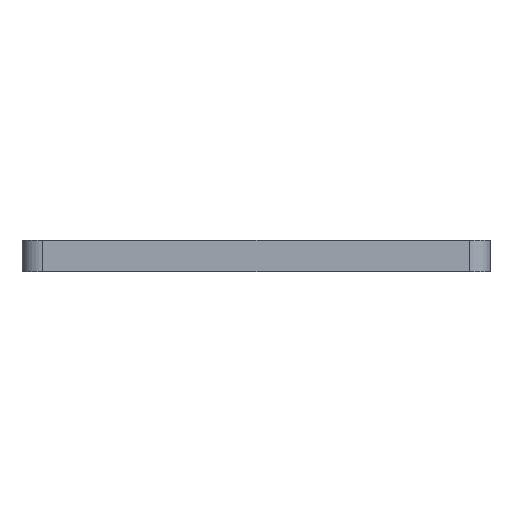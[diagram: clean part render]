
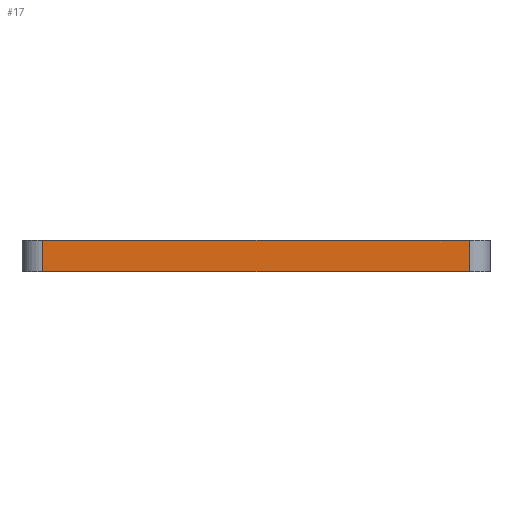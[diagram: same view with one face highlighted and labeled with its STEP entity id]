
A CAD part, left-side view. The second image highlights one B-rep face of the part: STEP entity #17.
In plain terms, the highlighted planar face has unit normal (-1, 0, 0).
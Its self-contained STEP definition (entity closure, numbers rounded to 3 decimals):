
#17 = ADVANCED_FACE('',(#18),#32,.F.);
#18 = FACE_BOUND('',#19,.F.);
#19 = EDGE_LOOP('',(#20,#55,#83,#111));
#20 = ORIENTED_EDGE('',*,*,#21,.F.);
#21 = EDGE_CURVE('',#22,#24,#26,.T.);
#22 = VERTEX_POINT('',#23);
#23 = CARTESIAN_POINT('',(-30.,-20.5,3.));
#24 = VERTEX_POINT('',#25);
#25 = CARTESIAN_POINT('',(-30.,20.5,3.));
#26 = SURFACE_CURVE('',#27,(#31,#43),.PCURVE_S1.);
#27 = LINE('',#28,#29);
#28 = CARTESIAN_POINT('',(-30.,-22.5,3.));
#29 = VECTOR('',#30,1.);
#30 = DIRECTION('',(0.,1.,0.));
#31 = PCURVE('',#32,#37);
#32 = PLANE('',#33);
#33 = AXIS2_PLACEMENT_3D('',#34,#35,#36);
#34 = CARTESIAN_POINT('',(-30.,-22.5,0.));
#35 = DIRECTION('',(1.,0.,0.));
#36 = DIRECTION('',(0.,0.,1.));
#37 = DEFINITIONAL_REPRESENTATION('',(#38),#42);
#38 = LINE('',#39,#40);
#39 = CARTESIAN_POINT('',(3.,0.));
#40 = VECTOR('',#41,1.);
#41 = DIRECTION('',(0.,-1.));
#42 = ( GEOMETRIC_REPRESENTATION_CONTEXT(2) 
PARAMETRIC_REPRESENTATION_CONTEXT() REPRESENTATION_CONTEXT('2D SPACE',''
  ) );
#43 = PCURVE('',#44,#49);
#44 = PLANE('',#45);
#45 = AXIS2_PLACEMENT_3D('',#46,#47,#48);
#46 = CARTESIAN_POINT('',(-30.,-22.5,3.));
#47 = DIRECTION('',(0.,0.,1.));
#48 = DIRECTION('',(1.,0.,0.));
#49 = DEFINITIONAL_REPRESENTATION('',(#50),#54);
#50 = LINE('',#51,#52);
#51 = CARTESIAN_POINT('',(0.,0.));
#52 = VECTOR('',#53,1.);
#53 = DIRECTION('',(0.,1.));
#54 = ( GEOMETRIC_REPRESENTATION_CONTEXT(2) 
PARAMETRIC_REPRESENTATION_CONTEXT() REPRESENTATION_CONTEXT('2D SPACE',''
  ) );
#55 = ORIENTED_EDGE('',*,*,#56,.F.);
#56 = EDGE_CURVE('',#57,#22,#59,.T.);
#57 = VERTEX_POINT('',#58);
#58 = CARTESIAN_POINT('',(-30.,-20.5,0.));
#59 = SURFACE_CURVE('',#60,(#64,#71),.PCURVE_S1.);
#60 = LINE('',#61,#62);
#61 = CARTESIAN_POINT('',(-30.,-20.5,0.));
#62 = VECTOR('',#63,1.);
#63 = DIRECTION('',(0.,0.,1.));
#64 = PCURVE('',#32,#65);
#65 = DEFINITIONAL_REPRESENTATION('',(#66),#70);
#66 = LINE('',#67,#68);
#67 = CARTESIAN_POINT('',(0.,-2.));
#68 = VECTOR('',#69,1.);
#69 = DIRECTION('',(1.,0.));
#70 = ( GEOMETRIC_REPRESENTATION_CONTEXT(2) 
PARAMETRIC_REPRESENTATION_CONTEXT() REPRESENTATION_CONTEXT('2D SPACE',''
  ) );
#71 = PCURVE('',#72,#77);
#72 = CYLINDRICAL_SURFACE('',#73,2.);
#73 = AXIS2_PLACEMENT_3D('',#74,#75,#76);
#74 = CARTESIAN_POINT('',(-28.,-20.5,0.));
#75 = DIRECTION('',(0.,0.,1.));
#76 = DIRECTION('',(-1.,-0.,0.));
#77 = DEFINITIONAL_REPRESENTATION('',(#78),#82);
#78 = LINE('',#79,#80);
#79 = CARTESIAN_POINT('',(0.,0.));
#80 = VECTOR('',#81,1.);
#81 = DIRECTION('',(0.,1.));
#82 = ( GEOMETRIC_REPRESENTATION_CONTEXT(2) 
PARAMETRIC_REPRESENTATION_CONTEXT() REPRESENTATION_CONTEXT('2D SPACE',''
  ) );
#83 = ORIENTED_EDGE('',*,*,#84,.T.);
#84 = EDGE_CURVE('',#57,#85,#87,.T.);
#85 = VERTEX_POINT('',#86);
#86 = CARTESIAN_POINT('',(-30.,20.5,0.));
#87 = SURFACE_CURVE('',#88,(#92,#99),.PCURVE_S1.);
#88 = LINE('',#89,#90);
#89 = CARTESIAN_POINT('',(-30.,-22.5,0.));
#90 = VECTOR('',#91,1.);
#91 = DIRECTION('',(0.,1.,0.));
#92 = PCURVE('',#32,#93);
#93 = DEFINITIONAL_REPRESENTATION('',(#94),#98);
#94 = LINE('',#95,#96);
#95 = CARTESIAN_POINT('',(0.,0.));
#96 = VECTOR('',#97,1.);
#97 = DIRECTION('',(0.,-1.));
#98 = ( GEOMETRIC_REPRESENTATION_CONTEXT(2) 
PARAMETRIC_REPRESENTATION_CONTEXT() REPRESENTATION_CONTEXT('2D SPACE',''
  ) );
#99 = PCURVE('',#100,#105);
#100 = PLANE('',#101);
#101 = AXIS2_PLACEMENT_3D('',#102,#103,#104);
#102 = CARTESIAN_POINT('',(-30.,-22.5,0.));
#103 = DIRECTION('',(0.,0.,1.));
#104 = DIRECTION('',(1.,0.,0.));
#105 = DEFINITIONAL_REPRESENTATION('',(#106),#110);
#106 = LINE('',#107,#108);
#107 = CARTESIAN_POINT('',(0.,0.));
#108 = VECTOR('',#109,1.);
#109 = DIRECTION('',(0.,1.));
#110 = ( GEOMETRIC_REPRESENTATION_CONTEXT(2) 
PARAMETRIC_REPRESENTATION_CONTEXT() REPRESENTATION_CONTEXT('2D SPACE',''
  ) );
#111 = ORIENTED_EDGE('',*,*,#112,.T.);
#112 = EDGE_CURVE('',#85,#24,#113,.T.);
#113 = SURFACE_CURVE('',#114,(#118,#125),.PCURVE_S1.);
#114 = LINE('',#115,#116);
#115 = CARTESIAN_POINT('',(-30.,20.5,0.));
#116 = VECTOR('',#117,1.);
#117 = DIRECTION('',(0.,0.,1.));
#118 = PCURVE('',#32,#119);
#119 = DEFINITIONAL_REPRESENTATION('',(#120),#124);
#120 = LINE('',#121,#122);
#121 = CARTESIAN_POINT('',(0.,-43.));
#122 = VECTOR('',#123,1.);
#123 = DIRECTION('',(1.,0.));
#124 = ( GEOMETRIC_REPRESENTATION_CONTEXT(2) 
PARAMETRIC_REPRESENTATION_CONTEXT() REPRESENTATION_CONTEXT('2D SPACE',''
  ) );
#125 = PCURVE('',#126,#131);
#126 = CYLINDRICAL_SURFACE('',#127,2.);
#127 = AXIS2_PLACEMENT_3D('',#128,#129,#130);
#128 = CARTESIAN_POINT('',(-28.,20.5,0.));
#129 = DIRECTION('',(0.,0.,1.));
#130 = DIRECTION('',(-1.,-0.,0.));
#131 = DEFINITIONAL_REPRESENTATION('',(#132),#136);
#132 = LINE('',#133,#134);
#133 = CARTESIAN_POINT('',(-0.,0.));
#134 = VECTOR('',#135,1.);
#135 = DIRECTION('',(-0.,1.));
#136 = ( GEOMETRIC_REPRESENTATION_CONTEXT(2) 
PARAMETRIC_REPRESENTATION_CONTEXT() REPRESENTATION_CONTEXT('2D SPACE',''
  ) );
